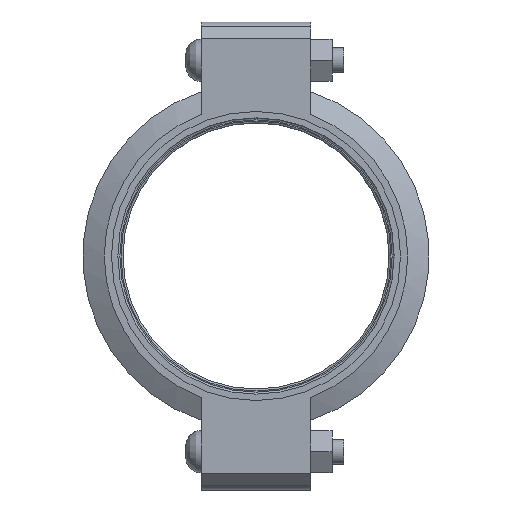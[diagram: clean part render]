
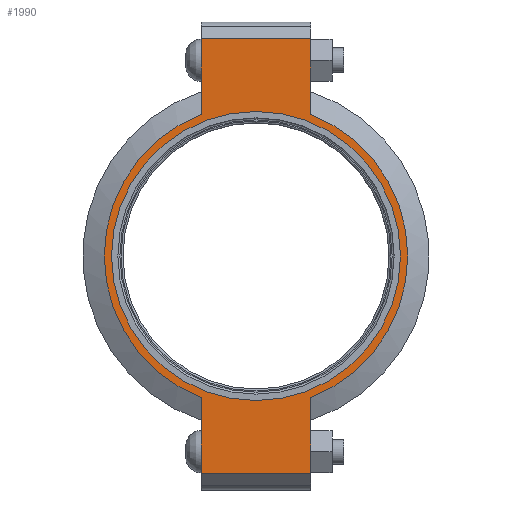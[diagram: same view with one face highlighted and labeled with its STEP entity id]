
A CAD part, left-side view. The second image highlights one B-rep face of the part: STEP entity #1990.
In plain terms, the highlighted planar face has unit normal (-1, 0, 0) as drawn and (0, 0, 1) by its records, which use the part's own axes.
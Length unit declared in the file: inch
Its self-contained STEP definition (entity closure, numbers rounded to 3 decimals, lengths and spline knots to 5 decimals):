
#152=LINE('',#3530,#249);
#160=LINE('',#3566,#257);
#167=LINE('',#3587,#264);
#176=LINE('',#3619,#273);
#177=LINE('',#3623,#274);
#178=LINE('',#3625,#275);
#249=VECTOR('',#2877,0.3937);
#257=VECTOR('',#2893,0.3937);
#264=VECTOR('',#2912,0.3937);
#273=VECTOR('',#2937,0.3937);
#274=VECTOR('',#2942,0.3937);
#275=VECTOR('',#2943,0.3937);
#332=FACE_BOUND('',#586,.T.);
#377=PLANE('',#2334);
#466=FACE_OUTER_BOUND('',#585,.T.);
#585=EDGE_LOOP('',(#1709,#1710,#1711,#1712,#1713,#1714,#1715,#1716));
#586=EDGE_LOOP('',(#1717));
#762=CIRCLE('',#2335,4.53);
#763=CIRCLE('',#2336,4.53);
#764=CIRCLE('',#2337,4.3125);
#930=VERTEX_POINT('',#3527);
#931=VERTEX_POINT('',#3529);
#942=VERTEX_POINT('',#3561);
#943=VERTEX_POINT('',#3565);
#950=VERTEX_POINT('',#3584);
#951=VERTEX_POINT('',#3586);
#961=VERTEX_POINT('',#3622);
#962=VERTEX_POINT('',#3624);
#963=VERTEX_POINT('',#3627);
#1179=EDGE_CURVE('',#931,#930,#152,.T.);
#1193=EDGE_CURVE('',#943,#942,#160,.T.);
#1203=EDGE_CURVE('',#951,#950,#167,.T.);
#1218=EDGE_CURVE('',#943,#930,#176,.T.);
#1219=EDGE_CURVE('',#942,#951,#762,.T.);
#1220=EDGE_CURVE('',#961,#950,#177,.T.);
#1221=EDGE_CURVE('',#961,#962,#178,.T.);
#1222=EDGE_CURVE('',#962,#931,#763,.T.);
#1223=EDGE_CURVE('',#963,#963,#764,.T.);
#1709=ORIENTED_EDGE('',*,*,#1218,.F.);
#1710=ORIENTED_EDGE('',*,*,#1193,.T.);
#1711=ORIENTED_EDGE('',*,*,#1219,.T.);
#1712=ORIENTED_EDGE('',*,*,#1203,.T.);
#1713=ORIENTED_EDGE('',*,*,#1220,.F.);
#1714=ORIENTED_EDGE('',*,*,#1221,.T.);
#1715=ORIENTED_EDGE('',*,*,#1222,.T.);
#1716=ORIENTED_EDGE('',*,*,#1179,.T.);
#1717=ORIENTED_EDGE('',*,*,#1223,.T.);
#1990=ADVANCED_FACE('',(#466,#332),#377,.T.);
#2334=AXIS2_PLACEMENT_3D('',#3620,#2938,#2939);
#2335=AXIS2_PLACEMENT_3D('',#3621,#2940,#2941);
#2336=AXIS2_PLACEMENT_3D('',#3626,#2944,#2945);
#2337=AXIS2_PLACEMENT_3D('',#3628,#2946,#2947);
#2877=DIRECTION('',(1.,0.,0.));
#2893=DIRECTION('',(-1.,0.,0.));
#2912=DIRECTION('',(-1.,0.,0.));
#2937=DIRECTION('',(0.,-1.,0.));
#2938=DIRECTION('center_axis',(0.,0.,1.));
#2939=DIRECTION('ref_axis',(-1.,0.,0.));
#2940=DIRECTION('center_axis',(0.,0.,1.));
#2941=DIRECTION('ref_axis',(1.,0.,0.));
#2942=DIRECTION('',(0.,1.,0.));
#2943=DIRECTION('',(1.,0.,0.));
#2944=DIRECTION('center_axis',(0.,0.,1.));
#2945=DIRECTION('ref_axis',(1.,0.,0.));
#2946=DIRECTION('center_axis',(0.,0.,-1.));
#2947=DIRECTION('ref_axis',(1.,0.,0.));
#3527=CARTESIAN_POINT('',(6.485,-1.63,1.16));
#3529=CARTESIAN_POINT('',(4.22658,-1.63,1.16));
#3530=CARTESIAN_POINT('',(6.985,-1.63,1.16));
#3561=CARTESIAN_POINT('',(4.22658,1.63,1.16));
#3565=CARTESIAN_POINT('',(6.485,1.63,1.16));
#3566=CARTESIAN_POINT('',(-6.985,1.63,1.16));
#3584=CARTESIAN_POINT('',(-6.485,1.63,1.16));
#3586=CARTESIAN_POINT('',(-4.22658,1.63,1.16));
#3587=CARTESIAN_POINT('',(-6.985,1.63,1.16));
#3619=CARTESIAN_POINT('',(6.485,-0.815,1.16));
#3620=CARTESIAN_POINT('Origin',(0.,0.,
1.16));
#3621=CARTESIAN_POINT('Origin',(0.,0.,1.16));
#3622=CARTESIAN_POINT('',(-6.485,-1.63,1.16));
#3623=CARTESIAN_POINT('',(-6.485,0.815,1.16));
#3624=CARTESIAN_POINT('',(-4.22658,-1.63,1.16));
#3625=CARTESIAN_POINT('',(6.985,-1.63,1.16));
#3626=CARTESIAN_POINT('Origin',(0.,0.,1.16));
#3627=CARTESIAN_POINT('',(-4.3125,0.,1.16));
#3628=CARTESIAN_POINT('Origin',(0.,0.,1.16));
